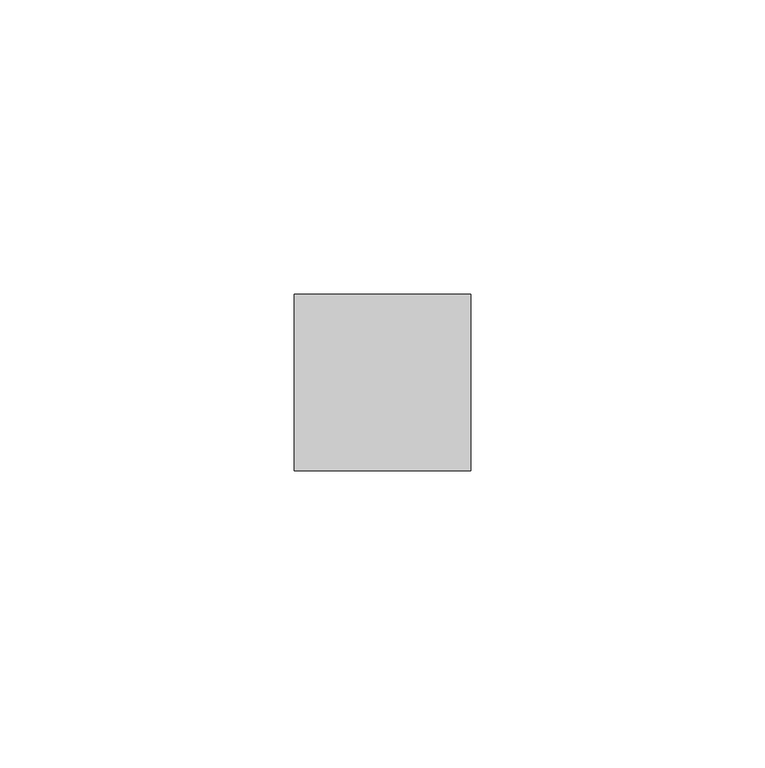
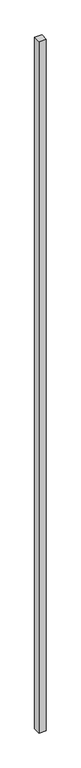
"""IFC4 building model written with IfcOpenShell, lengths in millimetres: member geometry, 矩形竖梃 : 30mm 正方形."""

from ifc_helpers import new_model, si_unit, frame, origin, place, context, project, spatial, polyline, outline, extrude, source, transform, mapped, element, save


def member_0acd70fe(model_context):
    return source(origin(), model_context, "Body", "SweptSolid", [
        extrude(outline(polyline([(0.0, 15.0), (0.0, -15.0), (-30.0, -15.0), (-30.0, 15.0), (0.0, 15.0)])), frame((0.0, 0.0, -3000.0), z_axis=(0.0, 0.0, 1.0), x_axis=(1.0, 0.0, 0.0)), (0.0, 0.0, 1.0), 3000.0),
    ])


if __name__ == "__main__":
    model = new_model("IFC4")
    model_context = context("Model", 3, world=origin())
    ifc_project = project(units=[si_unit("LENGTHUNIT", "METRE", prefix="MILLI")], contexts=[model_context])
    site = spatial("IfcSite", under=ifc_project)
    building = spatial("IfcBuilding", under=site)
    placement = place(None, origin())
    member_shape = member_0acd70fe(model_context)
    element("IfcMember", 1, ObjectType="矩形竖梃 : 30mm 正方形", at=placement, inside=building, context=model_context, shape_type="MappedRepresentation", body=[
        mapped(member_shape, transform((0.0, 0.0, 0.0), x_axis=(1.0, 0.0, 0.0), y_axis=(0.0, 1.0, 0.0), z_axis=(0.0, 0.0, 1.0))),
    ])
    save(model, "model.ifc")
